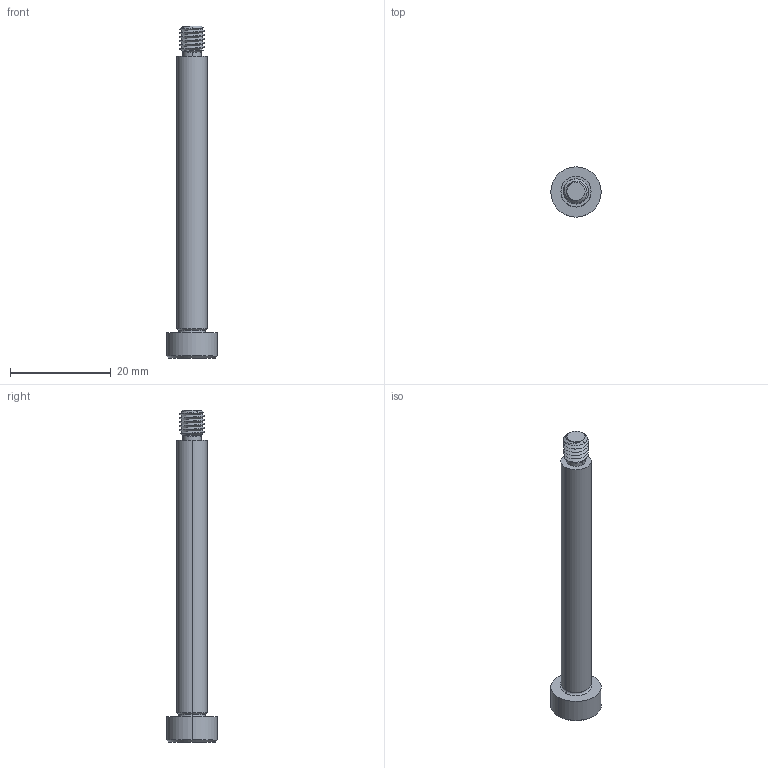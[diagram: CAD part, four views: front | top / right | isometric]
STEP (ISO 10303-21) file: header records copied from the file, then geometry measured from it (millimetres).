
FILE_DESCRIPTION (( 'STEP AP203' ), '1' );
FILE_NAME ('P0130.060-055-B2.step', '2021-11-09T21:29:36', ( '' ), ( '' ), 'SwSTEP 2.0', 'SolidWorks 2019', '' );
FILE_SCHEMA (( 'CONFIG_CONTROL_DESIGN' ));
Length unit declared in the file: millimetre
Products named in the file (1): P0130.060-055-B2
Bounding box: 10 x 10 x 66 mm (x, y, z)
Volume: 2000.1 mm3; surface area: 1524.3 mm2
Topology: 1 solids, 1 shells, 53 faces, 121 edges, 71 vertices
Faces by surface type: cylinder 17, plane 16, cone 14, torus 4, bspline 2
Entity records: 2367 total; most frequent: CARTESIAN_POINT 1186, ORIENTED_EDGE 238, DIRECTION 226, EDGE_CURVE 119, AXIS2_PLACEMENT_3D 92, VERTEX_POINT 71, EDGE_LOOP 56, FACE_OUTER_BOUND 53
